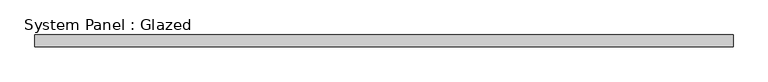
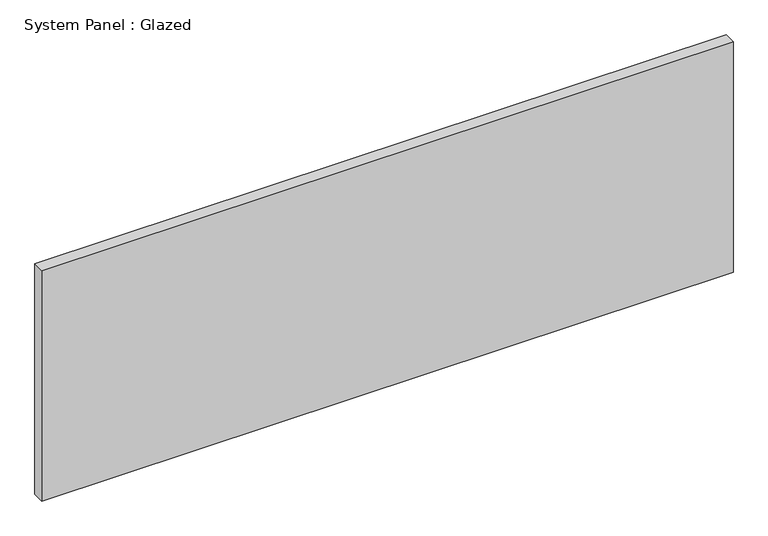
"""IFC4 building model written with IfcOpenShell, lengths in millimetres: plate geometry, System Panel : Glazed."""

from ifc_helpers import new_model, si_unit, origin, origin_with_axes, place, context, project, spatial, polyline, outline, extrude, source, transform, mapped, element, save


def system_panel_glazed_b8aaddad(model_context):
    return source(origin(), model_context, "Body", "SweptSolid", [
        extrude(outline(polyline([(745.0, -12.5), (-745.0, -12.5), (-745.0, 12.5), (745.0, 12.5), (745.0, -12.5)])), origin_with_axes(), (0.0, 0.0, 1.0), 525.0),
    ])


if __name__ == "__main__":
    model = new_model("IFC4")
    model_context = context("Model", 3, world=origin())
    ifc_project = project(units=[si_unit("LENGTHUNIT", "METRE", prefix="MILLI")], contexts=[model_context])
    site = spatial("IfcSite", under=ifc_project)
    building = spatial("IfcBuilding", under=site)
    placement = place(None, origin())
    system_panel_glazed_shape = system_panel_glazed_b8aaddad(model_context)
    element("IfcPlate", 1, ObjectType="System Panel : Glazed", at=placement, inside=building, context=model_context, shape_type="MappedRepresentation", body=[
        mapped(system_panel_glazed_shape, transform((0.0, 0.0, 0.0), x_axis=(1.0, 0.0, 0.0), y_axis=(0.0, 1.0, 0.0), z_axis=(0.0, 0.0, 1.0))),
    ])
    save(model, "model.ifc")
